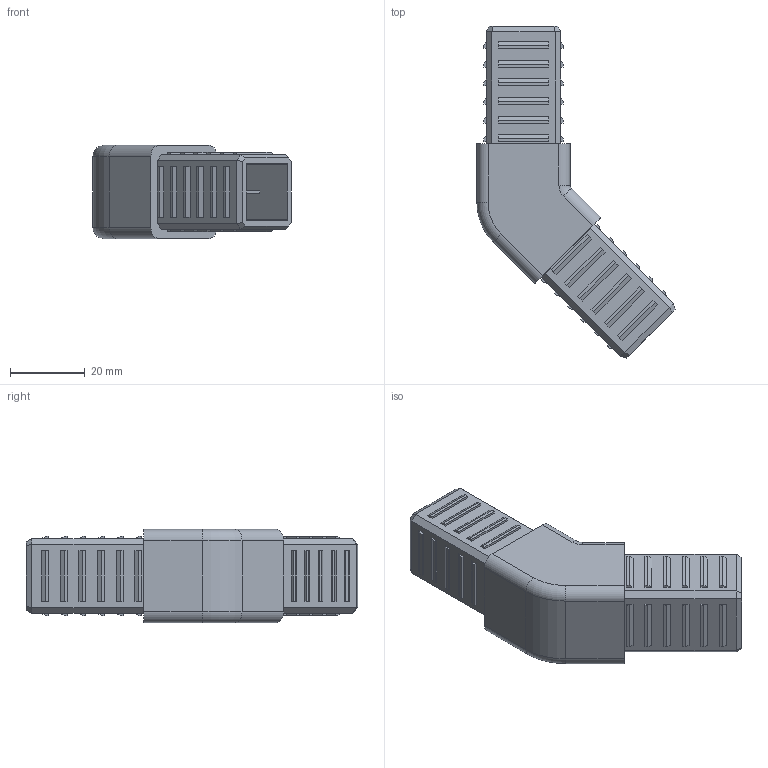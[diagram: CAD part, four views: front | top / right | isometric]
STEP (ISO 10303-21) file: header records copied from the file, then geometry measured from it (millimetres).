
FILE_DESCRIPTION (( 'STEP AP203' ), '1' );
FILE_NAME ('013.025.107.STEP', '2020-09-18T14:59:32', ( '' ), ( '' ), 'SwSTEP 2.0', 'SolidWorks 2018', '' );
FILE_SCHEMA (( 'CONFIG_CONTROL_DESIGN' ));
Length unit declared in the file: millimetre
Products named in the file (1): 013.025.107
Bounding box: 53.13 x 88.95 x 25 mm (x, y, z)
Volume: 25286.6 mm3; surface area: 18615 mm2
Topology: 1 solids, 1 shells, 332 faces, 824 edges, 540 vertices
Faces by surface type: plane 310, cylinder 18, torus 4
Entity records: 9729 total; most frequent: CARTESIAN_POINT 1709, ORIENTED_EDGE 1648, DIRECTION 1518, EDGE_CURVE 824, LINE 788, VECTOR 788, VERTEX_POINT 540, EDGE_LOOP 386
